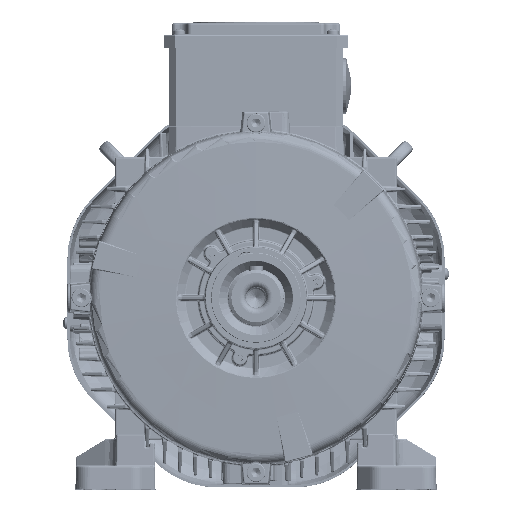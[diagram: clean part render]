
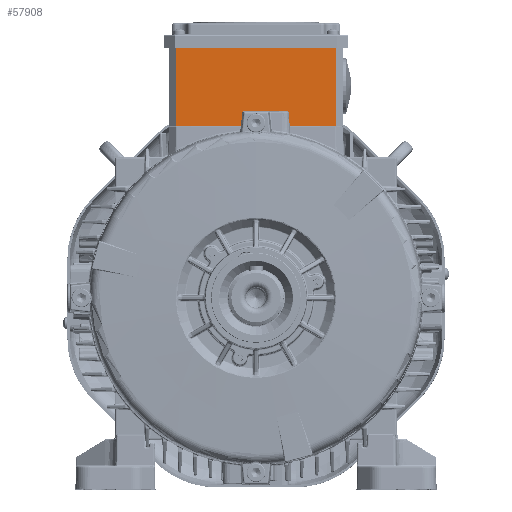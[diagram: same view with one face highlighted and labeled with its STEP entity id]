
A CAD part, top view. The second image highlights one B-rep face of the part: STEP entity #57908.
In plain terms, the highlighted planar face has unit normal (0, 0, 1).
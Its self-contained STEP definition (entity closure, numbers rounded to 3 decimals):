
#57908=ADVANCED_FACE('22-0-81',(#76591),#62001,.T.);
#62001=PLANE('',#280075);
#76591=FACE_OUTER_BOUND('',#93623,.T.);
#93623=EDGE_LOOP('',(#161666,#161667,#161668,#161669));
#161666=ORIENTED_EDGE('',*,*,#225202,.F.);
#161667=ORIENTED_EDGE('',*,*,#225203,.T.);
#161668=ORIENTED_EDGE('',*,*,#225204,.F.);
#161669=ORIENTED_EDGE('',*,*,#225200,.F.);
#186896=VERTEX_POINT('',#544125);
#186897=VERTEX_POINT('',#544127);
#186898=VERTEX_POINT('',#544131);
#186899=VERTEX_POINT('',#544133);
#225200=EDGE_CURVE('',#186896,#186897,#240893,.T.);
#225202=EDGE_CURVE('',#186898,#186896,#240895,.T.);
#225203=EDGE_CURVE('',#186898,#186899,#240896,.T.);
#225204=EDGE_CURVE('',#186897,#186899,#240897,.T.);
#240893=LINE('',#544126,#253171);
#240895=LINE('',#544130,#253173);
#240896=LINE('',#544132,#253174);
#240897=LINE('',#544134,#253175);
#253171=VECTOR('',#344112,1.);
#253173=VECTOR('',#344116,1.);
#253174=VECTOR('',#344117,1.);
#253175=VECTOR('',#344118,1.);
#280075=AXIS2_PLACEMENT_3D('',#544135,#344119,#344120);
#344112=DIRECTION('',(0.,1.,0.));
#344116=DIRECTION('',(-1.,0.,0.));
#344117=DIRECTION('',(0.,1.,0.));
#344118=DIRECTION('',(1.,0.,0.));
#344119=DIRECTION('',(0.,0.,1.));
#344120=DIRECTION('',(1.,0.,0.));
#544125=CARTESIAN_POINT('',(205.,118.25,308.));
#544126=CARTESIAN_POINT('',(205.,118.25,308.));
#544127=CARTESIAN_POINT('',(205.,176.25,308.));
#544130=CARTESIAN_POINT('',(315.,118.25,308.));
#544131=CARTESIAN_POINT('',(315.,118.25,308.));
#544132=CARTESIAN_POINT('',(315.,118.25,308.));
#544133=CARTESIAN_POINT('',(315.,176.25,308.));
#544134=CARTESIAN_POINT('',(205.,176.25,308.));
#544135=CARTESIAN_POINT('',(205.,118.25,308.));
